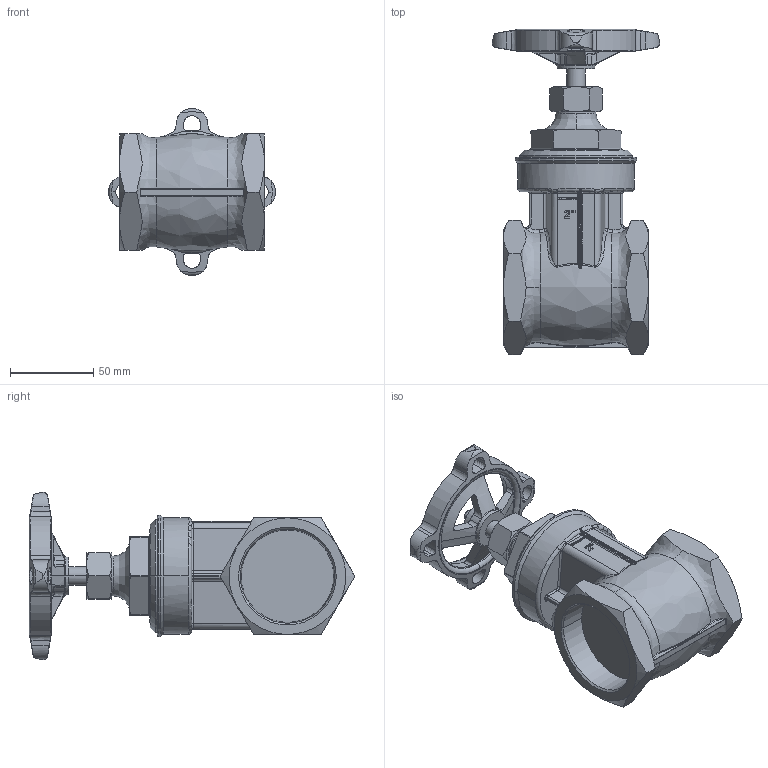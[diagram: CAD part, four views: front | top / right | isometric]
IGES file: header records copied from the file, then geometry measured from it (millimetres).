
Global section: file name: No Iges File Name specified; native system: AutoDesk Inventor R12.0; preprocessor: AutoDesk Inventor Iges Exporter R12.0; date: 20110310.124237; units: millimetre
Bounding box: 100.3 x 195.38 x 100.3 mm (x, y, z)
Volume: 483662.9 mm3; surface area: 69347 mm2
Topology: 1 solids, 1 shells, 752 faces, 2075 edges, 1337 vertices
Faces by surface type: plane 364, bspline 179, revolution 77, cylinder 54, cone 52, torus 26
